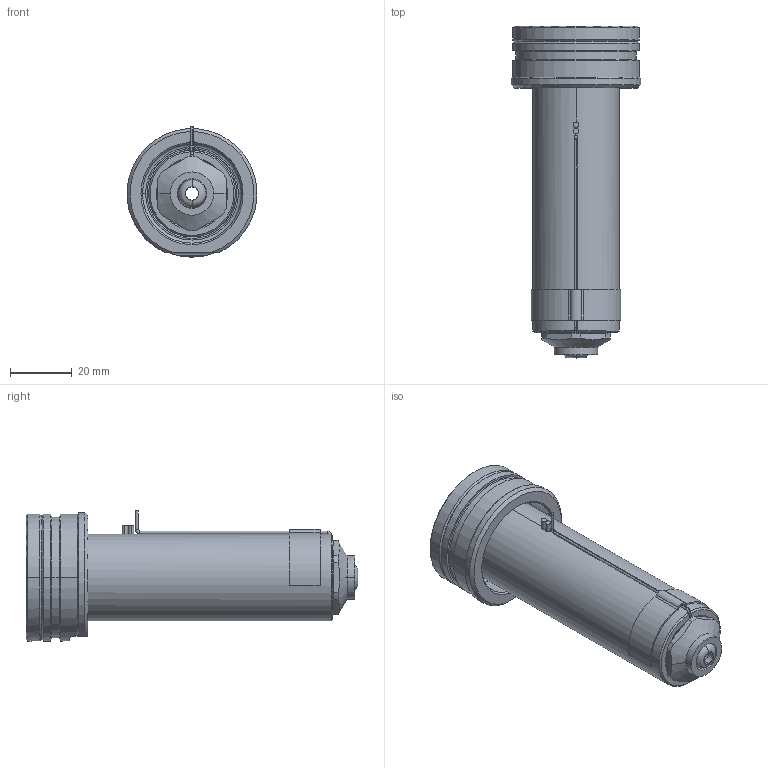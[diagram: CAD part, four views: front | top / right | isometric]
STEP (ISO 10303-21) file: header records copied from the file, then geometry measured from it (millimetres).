
FILE_DESCRIPTION((''),'2;1');
FILE_NAME('EO10_VG-BL_WR_090_SW','2024-02-19T13:11:07',('sundharh'),(''),'CREO PARAMETRIC BY PTC INC, 2023154','CREO PARAMETRIC BY PTC INC, 2023154','');
FILE_SCHEMA(('CONFIG_CONTROL_DESIGN'));
Length unit declared in the file: millimetre
Products named in the file (1): EO10_VG-BL_WR_090_SW
Bounding box: 41.85 x 107.2 x 42.02 mm (x, y, z)
Volume: 66450.2 mm3; surface area: 19598.5 mm2
Topology: 1 solids, 1 shells, 188 faces, 469 edges, 286 vertices
Faces by surface type: cylinder 71, plane 46, cone 35, torus 23, bspline 11, sphere 2
Entity records: 6468 total; most frequent: CARTESIAN_POINT 1903, DIRECTION 1005, ORIENTED_EDGE 934, EDGE_CURVE 467, AXIS2_PLACEMENT_3D 419, VERTEX_POINT 286, CIRCLE 242, EDGE_LOOP 203
